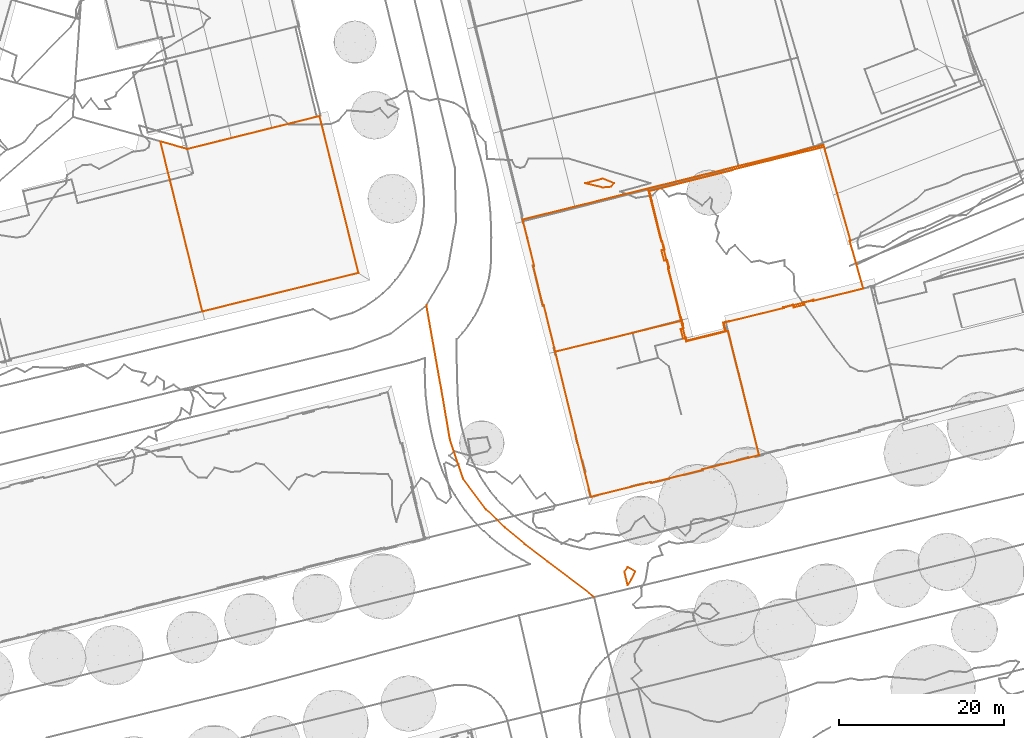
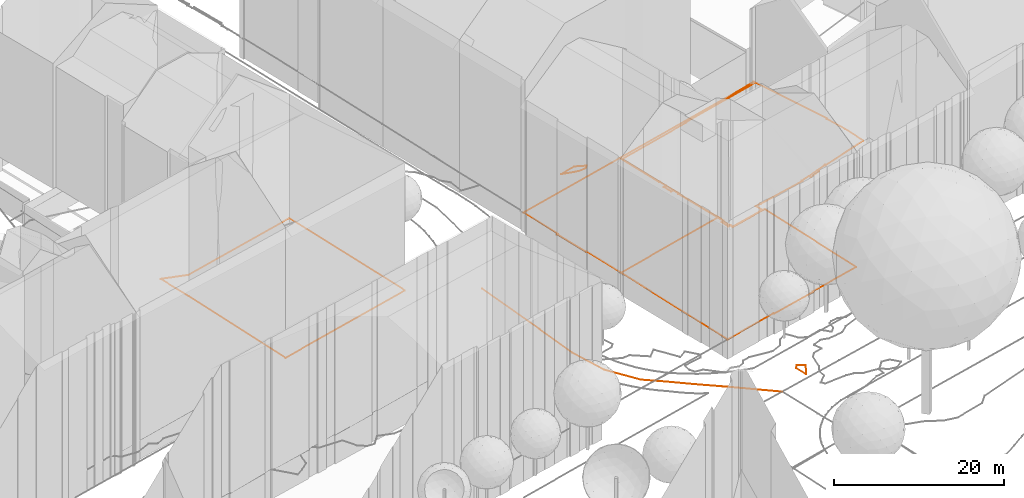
# Not in any storey, part 109 of 494: 8 proxies.
"""IFC2X3 model written with IfcOpenShell, lengths in metres."""

import ifcopenshell
import ifcopenshell.guid

model = None  # the IFC model being written
_history = None  # IfcOwnerHistory: only IFC2X3 demands one
_inside = {}  # id of a spatial element -> (the spatial element, [elements in it])
_under = {}  # id of a project, library or spatial element -> (it, [spatial elements below it])
_declared = {}  # id of a project -> (the project, [libraries it declares])
_typed = {}  # id of a type object -> (the type object, [elements of that type])
_made_of = {}  # id of a material, layer set ... -> (it, [elements and type objects made of it])


def new_model(schema):
    """Start an empty IFC model of exactly this schema.

    Asked for "IFC4X3", IfcOpenShell would pick the latest addendum, in which some entities
    have other attributes; the version numbers below select the first issue.
    IFC2X3 requires an IfcOwnerHistory on every rooted entity: one is made here for all.
    """
    global model, _history
    if schema == "IFC4X3":
        model = ifcopenshell.file(schema_version=(4, 3, 0, 0))
    else:
        model = ifcopenshell.file(schema=schema)
    _inside.clear()
    _under.clear()
    _declared.clear()
    _typed.clear()
    _made_of.clear()
    _history = None
    if model.schema == "IFC2X3":
        org = make("IfcOrganization", Name="unknown")
        user = make(
            "IfcPersonAndOrganization",
            ThePerson=make("IfcPerson", FamilyName="unknown"),
            TheOrganization=org,
        )
        app = make(
            "IfcApplication",
            ApplicationDeveloper=org,
            Version="unknown",
            ApplicationFullName="unknown",
            ApplicationIdentifier="unknown",
        )
        _history = make(
            "IfcOwnerHistory",
            OwningUser=user,
            OwningApplication=app,
            ChangeAction="ADDED",
            CreationDate=0,
        )
    return model


def make(cls, **values):
    """One entity of the class cls with the attributes given. An attribute that is None is left unset."""
    return model.create_entity(
        cls, **{name: value for name, value in values.items() if value is not None}
    )


def entity(cls, *values):
    """Any entity or typed value of the class cls, its attributes in the order of the schema. None: left unset."""
    e = model.create_entity(cls)
    for i, value in enumerate(values):
        if value is not None:
            e[i] = value
    return e


def rooted(cls, **values):
    """An entity with a GlobalId (a new one), such as an element, a storey or a relation."""
    return make(cls, GlobalId=ifcopenshell.guid.new(), OwnerHistory=_history, **values)


def si_unit(unit_type, name, prefix=None):
    """IfcSIUnit, for example si_unit("LENGTHUNIT", "METRE", prefix="MILLI")."""
    return make("IfcSIUnit", UnitType=unit_type, Prefix=prefix, Name=name)


def assignment(units):
    """IfcUnitAssignment: the units of a project."""
    return None if units is None else make("IfcUnitAssignment", Units=units)


def point(xyz):
    """IfcCartesianPoint."""
    return None if xyz is None else make("IfcCartesianPoint", Coordinates=xyz)


def direction(xyz):
    """IfcDirection."""
    return None if xyz is None else make("IfcDirection", DirectionRatios=xyz)


def frame(location, z_axis=None, x_axis=None):
    """IfcAxis2Placement3D, a coordinate frame: its origin and axes. An axis left out is left unset."""
    return make(
        "IfcAxis2Placement3D",
        Location=point(location),
        Axis=direction(z_axis),
        RefDirection=direction(x_axis),
    )


def origin_with_axes():
    """The frame at (0, 0, 0) with the z axis (0, 0, 1) and the x axis (1, 0, 0) written out."""
    return frame((0.0, 0.0, 0.0), z_axis=(0.0, 0.0, 1.0), x_axis=(1.0, 0.0, 0.0))


def place(relative_to, where):
    """IfcLocalPlacement: puts the frame where relative to a parent placement (None: the world)."""
    return make(
        "IfcLocalPlacement", PlacementRelTo=relative_to, RelativePlacement=where
    )


def context(
    kind, dimensions, precision=None, world=None, true_north=None, identifier=None
):
    """IfcGeometricRepresentationContext, for example the 3D "Model" context."""
    return make(
        "IfcGeometricRepresentationContext",
        ContextIdentifier=identifier,
        ContextType=kind,
        CoordinateSpaceDimension=dimensions,
        Precision=precision,
        WorldCoordinateSystem=world,
        TrueNorth=true_north,
    )


def subcontext(parent, identifier, kind, view, scale=None):
    """IfcGeometricRepresentationSubContext, for example "Body" below "Model"."""
    return make(
        "IfcGeometricRepresentationSubContext",
        ContextIdentifier=identifier,
        ContextType=kind,
        ParentContext=parent,
        TargetScale=scale,
        TargetView=view,
    )


def project(units=None, contexts=None):
    """IfcProject with its units and contexts."""
    return rooted(
        "IfcProject",
        Name="project",
        RepresentationContexts=contexts,
        UnitsInContext=assignment(units),
    )


def shape(context_of_items, identifier, shape_type, items):
    """IfcShapeRepresentation: the items that make up one representation, for example the "Body"."""
    return make(
        "IfcShapeRepresentation",
        ContextOfItems=context_of_items,
        RepresentationIdentifier=identifier,
        RepresentationType=shape_type,
        Items=items,
    )


def made_of(thing, what):
    """Note that an element or type object is made of a material, layer set ...; save() writes the relation."""
    if what is not None:
        _made_of.setdefault(what.id(), (what, []))[1].append(thing)
    return thing


def element(
    cls,
    number,
    at=None,
    inside=None,
    cuts=None,
    type_object=None,
    material=None,
    context=None,
    identifier="Body",
    shape_type=None,
    held_by="IfcProductDefinitionShape",
    body=None,
    shapes=None,
    **own,
):
    """One element of the class cls, such as IfcWall. Its Tag is "e" and its number.

    at: its placement. inside: the storey or other place that contains it. cuts: it is an
    opening in that element (IfcRelVoidsElement). A single representation is given by context,
    identifier, shape_type and body (its items); several are given by shapes. held_by: the class
    of the entity that holds the representations. save() writes the other relations.
    """
    e = rooted(cls, Tag="e%d" % number, ObjectPlacement=at, **own)
    if body is not None:
        shapes = [shape(context, identifier, shape_type, body)]
    if shapes is not None:
        e.Representation = make(held_by, Representations=shapes)
    if inside is not None:
        _inside.setdefault(inside.id(), (inside, []))[1].append(e)
    if cuts is not None:
        rooted(
            "IfcRelVoidsElement", RelatingBuildingElement=cuts, RelatedOpeningElement=e
        )
    if type_object is not None:
        _typed.setdefault(type_object.id(), (type_object, []))[1].append(e)
    return made_of(e, material)


def aggregate(whole, parts):
    """IfcRelAggregates: a whole, such as a stair, and the parts it consists of."""
    return rooted("IfcRelAggregates", RelatingObject=whole, RelatedObjects=parts)


def save(model, path):
    """Write the relations noted so far, then the file.

    IfcRelAggregates (storeys below a building ...), IfcRelContainedInSpatialStructure (elements
    in a storey), IfcRelDefinesByType, IfcRelAssociatesMaterial and IfcRelDeclares: one each for
    every whole, place, type object, material and project.
    """
    for whole, parts in _under.values():
        aggregate(whole, parts)
    for where, things in _inside.values():
        rooted(
            "IfcRelContainedInSpatialStructure",
            RelatedElements=things,
            RelatingStructure=where,
        )
    for kind, things in _typed.values():
        rooted("IfcRelDefinesByType", RelatedObjects=things, RelatingType=kind)
    for what, things in _made_of.values():
        rooted("IfcRelAssociatesMaterial", RelatedObjects=things, RelatingMaterial=what)
    for by, libraries in _declared.values():
        rooted("IfcRelDeclares", RelatingContext=by, RelatedDefinitions=libraries)
    model.write(path)


model = new_model("IFC2X3")

# Units and contexts
model_context = context("Model", 3, precision=1e-05, world=origin_with_axes())
body_context = subcontext(model_context, "Body", "Model", "MODEL_VIEW")
ifc_project = project(units=[si_unit("AREAUNIT", "SQUARE_METRE"), si_unit("LENGTHUNIT", "METRE")], contexts=[model_context])

# Proxies
proxy_1_placement = place(None, frame((138.3077320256, 377.3967316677, 540.243), z_axis=(0.0, 0.0, 1.0), x_axis=(1.0, 0.0, 0.0)))
element("IfcBuildingElementProxy", 1, at=proxy_1_placement, Name="Road 28", ObjectType="NOTDEFINED", context=body_context, shape_type="GeometricCurveSet", body=[
    entity("IfcGeometricCurveSet", [entity("IfcPolyline", [entity("IfcCartesianPoint", [20.3359999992, -35.3429989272, -0.453]), entity("IfcCartesianPoint", [14.7039999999, -31.042999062, -0.326]), entity("IfcCartesianPoint", [11.9250000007, -28.9269991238, -0.309]), entity("IfcCartesianPoint", [9.5439999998, -26.9419991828, -0.334]), entity("IfcCartesianPoint", [7.2330000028, -24.7309992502, -0.577]), entity("IfcCartesianPoint", [4.4389999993, -21.0059993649, -0.432]), entity("IfcCartesianPoint", [2.8550000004, -16.2559995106, -0.308]), entity("IfcCartesianPoint", [1.8310000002, -10.2949996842, -0.191]), entity("IfcCartesianPoint", [0.0, 0.0, 0.0])])]),
])
proxy_2_placement = place(None, frame((165.3217320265, 391.2317160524, 540.9961313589), z_axis=(0.0, 0.0, 1.0), x_axis=(1.0, 0.0, 0.0)))
element("IfcBuildingElementProxy", 2, at=proxy_2_placement, Name="Roads Outline 62", ObjectType="NOTDEFINED", context=body_context, shape_type="GeometricCurveSet", body=[
    entity("IfcGeometricCurveSet", [entity("IfcPolyline", [entity("IfcCartesianPoint", [0.0, 0.0, 0.0]), entity("IfcCartesianPoint", [10.0830000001, 2.5330000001, 0.1394430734]), entity("IfcCartesianPoint", [10.068, 2.5960000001, 0.1435225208]), entity("IfcCartesianPoint", [21.1520000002, 5.3470000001, 0.3397524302]), entity("IfcCartesianPoint", [21.216, 5.118, 0.3521328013]), entity("IfcCartesianPoint", [24.355, -6.0009999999, 0.9509030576]), entity("IfcCartesianPoint", [24.2620000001, -6.0379999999, 0.9383897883]), entity("IfcCartesianPoint", [25.0800000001, -8.926, 0.9689763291]), entity("IfcCartesianPoint", [25.8990000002, -11.811, 0.7584156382]), entity("IfcCartesianPoint", [19.9300000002, -13.2749999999, 0.2187041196]), entity("IfcCartesianPoint", [19.9010000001, -13.169, 0.2253351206]), entity("IfcCartesianPoint", [18.7240000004, -13.4639999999, 0.0450469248]), entity("IfcCartesianPoint", [18.8020000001, -13.7609999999, 0.0280657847]), entity("IfcCartesianPoint", [17.4620000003, -14.0899999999, -0.165221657]), entity("IfcCartesianPoint", [17.4050000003, -13.7719999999, -0.1505070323]), entity("IfcCartesianPoint", [16.2030000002, -14.075, -0.2319391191]), entity("IfcCartesianPoint", [16.2270000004, -14.1769999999, -0.2344925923]), entity("IfcCartesianPoint", [9.6540000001, -15.7889999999, -0.2279231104]), entity("IfcCartesianPoint", [9.642, -15.7409999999, -0.2266768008]), entity("IfcCartesianPoint", [8.9250000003, -15.9239999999, -0.2103556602]), entity("IfcCartesianPoint", [9.1150000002, -16.71, -0.2306013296]), entity("IfcCartesianPoint", [9.1700000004, -16.689, -0.2317187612]), entity("IfcCartesianPoint", [9.2310000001, -16.9379999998, -0.2381433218]), entity("IfcCartesianPoint", [4.5290000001, -18.1159999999, -0.2726257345]), entity("IfcCartesianPoint", [4.4370000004, -17.7679999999, -0.2605242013]), entity("IfcCartesianPoint", [4.0840000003, -17.8640000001, -0.259479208]), entity("IfcCartesianPoint", [3.8000000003, -16.72, -0.2196210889]), entity("IfcCartesianPoint", [4.1460000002, -16.6099999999, -0.2201778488]), entity("IfcCartesianPoint", [4.0240000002, -16.129, -0.2028316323]), entity("IfcCartesianPoint", [4.0620000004, -16.115, -0.2028735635]), entity("IfcCartesianPoint", [3.9550000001, -15.713, -0.1881300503]), entity("IfcCartesianPoint", [3.8460000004, -15.3059999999, -0.1754722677]), entity("IfcCartesianPoint", [3.8030000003, -15.3159999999, -0.1756053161]), entity("IfcCartesianPoint", [2.318, -9.3810000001, -0.122841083]), entity("IfcCartesianPoint", [2.4100000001, -9.3470000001, -0.1265762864]), entity("IfcCartesianPoint", [2.1660000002, -8.3689999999, -0.1508404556]), entity("IfcCartesianPoint", [1.7810000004, -8.433, -0.134074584]), entity("IfcCartesianPoint", [1.4530000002, -7.169, -0.1464159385]), entity("IfcCartesianPoint", [1.8430000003, -7.1029999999, -0.1656941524]), entity("IfcCartesianPoint", [1.5630000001, -6.041, -0.0879035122]), entity("IfcCartesianPoint", [1.4900000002, -6.041, -0.0815263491]), entity("IfcCartesianPoint", [0.0, 0.0, 0.0])])]),
])
proxy_3_placement = place(None, frame((153.9197320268, 371.7767160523, 540.4879141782), z_axis=(0.0, 0.0, 1.0), x_axis=(1.0, 0.0, 0.0)))
element("IfcBuildingElementProxy", 3, at=proxy_3_placement, Name="Cadastre 57", ObjectType="NOTDEFINED", context=body_context, shape_type="GeometricCurveSet", body=[
    entity("IfcGeometricCurveSet", [entity("IfcPolyline", [entity("IfcCartesianPoint", [0.0, 0.0, 0.0]), entity("IfcCartesianPoint", [15.25, 3.7180000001, 0.3206798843]), entity("IfcCartesianPoint", [15.8679999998, 1.2450000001, 0.233329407]), entity("IfcCartesianPoint", [20.6519999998, 2.4400000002, 0.2680833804]), entity("IfcCartesianPoint", [20.949, 2.5140000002, 0.2612989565]), entity("IfcCartesianPoint", [24.679, -12.5369999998, -0.2139129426]), entity("IfcCartesianPoint", [17.767, -14.2509999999, -0.274823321]), entity("IfcCartesianPoint", [17.7910000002, -14.348, -0.2763359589]), entity("IfcCartesianPoint", [11.6189999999, -15.879, -0.3130261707]), entity("IfcCartesianPoint", [11.591, -15.7679999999, -0.3031984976]), entity("IfcCartesianPoint", [4.3109999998, -17.5729999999, -0.4164211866]), entity("IfcCartesianPoint", [0.0, 0.0, 0.0])])]),
])
proxy_4_placement = place(None, frame((149.9747320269, 387.7837160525, 540.8217711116), z_axis=(0.0, 0.0, 1.0), x_axis=(1.0, 0.0, 0.0)))
element("IfcBuildingElementProxy", 4, at=proxy_4_placement, Name="Cadastre 58", ObjectType="NOTDEFINED", context=body_context, shape_type="GeometricCurveSet", body=[
    entity("IfcGeometricCurveSet", [entity("IfcPolyline", [entity("IfcCartesianPoint", [0.0, 0.0, 0.0]), entity("IfcCartesianPoint", [15.1849999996, 3.7659999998, 0.1890085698]), entity("IfcCartesianPoint", [16.801, -2.7030000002, 0.0862834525]), entity("IfcCartesianPoint", [16.8689999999, -2.6860000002, 0.0811617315]), entity("IfcCartesianPoint", [17.6569999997, -5.8420000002, 0.0482905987]), entity("IfcCartesianPoint", [17.5889999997, -5.8590000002, 0.0508304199]), entity("IfcCartesianPoint", [19.1949999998, -12.2890000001, -0.0131770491]), entity("IfcCartesianPoint", [3.9449999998, -16.0070000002, -0.3338569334]), entity("IfcCartesianPoint", [2.5599999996, -10.3630000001, -0.2333548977]), entity("IfcCartesianPoint", [2.4529999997, -10.3890000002, -0.2361235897]), entity("IfcCartesianPoint", [1.2899999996, -5.6460000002, -0.1848832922]), entity("IfcCartesianPoint", [1.3959999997, -5.6200000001, -0.1825366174]), entity("IfcCartesianPoint", [0.0, 0.0, 0.0])])]),
])
proxy_5_placement = place(None, frame((165.1597320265, 391.5497160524, 541.0107796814), z_axis=(0.0, 0.0, 1.0), x_axis=(1.0, 0.0, 0.0)))
element("IfcBuildingElementProxy", 5, at=proxy_5_placement, Name="Cadastre 60", ObjectType="NOTDEFINED", context=body_context, shape_type="GeometricCurveSet", body=[
    entity("IfcGeometricCurveSet", [entity("IfcPolyline", [entity("IfcCartesianPoint", [0.0, 0.0, 0.0]), entity("IfcCartesianPoint", [21.2470000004, 5.2660000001, 0.317110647]), entity("IfcCartesianPoint", [21.378, 4.8, 0.3374844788]), entity("IfcCartesianPoint", [24.517, -6.3189999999, 0.9362547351]), entity("IfcCartesianPoint", [24.4240000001, -6.3559999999, 0.9237414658]), entity("IfcCartesianPoint", [25.2420000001, -9.2439999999, 0.9543280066]), entity("IfcCartesianPoint", [26.0610000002, -12.129, 0.7437673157]), entity("IfcCartesianPoint", [19.9920000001, -13.618, 0.1906262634]), entity("IfcCartesianPoint", [19.9780000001, -13.5589999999, 0.1941934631]), entity("IfcCartesianPoint", [16.4450000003, -14.425, -0.246586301]), entity("IfcCartesianPoint", [16.4580000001, -14.476, -0.247868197]), entity("IfcCartesianPoint", [9.1520000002, -16.27, -0.2273344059]), entity("IfcCartesianPoint", [9.412, -17.3329999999, -0.2547821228]), entity("IfcCartesianPoint", [4.628, -18.5279999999, -0.2895360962]), entity("IfcCartesianPoint", [4.0100000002, -16.0549999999, -0.2021856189]), entity("IfcCartesianPoint", [2.4040000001, -9.625, -0.1381781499]), entity("IfcCartesianPoint", [2.4720000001, -9.608, -0.1407179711]), entity("IfcCartesianPoint", [1.6840000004, -6.452, -0.1078468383]), entity("IfcCartesianPoint", [1.6160000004, -6.469, -0.1027251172]), entity("IfcCartesianPoint", [0.0, 0.0, 0.0])])]),
])
proxy_6_placement = place(None, frame((106.0997320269, 397.2337160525, 540.9080621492), z_axis=(0.0, 0.0, 1.0), x_axis=(1.0, 0.0, 0.0)))
element("IfcBuildingElementProxy", 6, at=proxy_6_placement, Name="Cadastre 63", ObjectType="NOTDEFINED", context=body_context, shape_type="GeometricCurveSet", body=[
    entity("IfcGeometricCurveSet", [entity("IfcPolyline", [entity("IfcCartesianPoint", [0.0, 0.0, 0.0]), entity("IfcCartesianPoint", [3.253, -0.912, -0.0237522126]), entity("IfcCartesianPoint", [19.2749999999, 3.0799999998, 0.1126464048]), entity("IfcCartesianPoint", [23.9909999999, -15.9110000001, -0.3950353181]), entity("IfcCartesianPoint", [5.085, -20.5830000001, -0.6308886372]), entity("IfcCartesianPoint", [1.1489999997, -4.648, -0.0622074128]), entity("IfcCartesianPoint", [0.0, 0.0, 0.0])])]),
])
proxy_7_placement = place(None, frame((157.5410860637, 392.1707160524, 541.0), z_axis=(0.0, 0.0, 1.0), x_axis=(1.0, 0.0, 0.0)))
element("IfcBuildingElementProxy", 7, at=proxy_7_placement, Name="Contour Line 541.0 m", ObjectType="NOTDEFINED", context=body_context, shape_type="GeometricCurveSet", body=[
    entity("IfcGeometricCurveSet", [entity("IfcPolyline", [entity("IfcCartesianPoint", [3.4773053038, 0.0, 0.0]), entity("IfcCartesianPoint", [3.1366459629, -0.4175084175, 0.0]), entity("IfcCartesianPoint", [2.1366459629, -0.5073529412, 0.0]), entity("IfcCartesianPoint", [0.0, 0.0, 0.0]), entity("IfcCartesianPoint", [2.1366459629, 0.5778894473, 0.0]), entity("IfcCartesianPoint", [3.4773053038, 0.0, 0.0])])]),
])
proxy_8_placement = place(None, frame((162.3017921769, 345.1707160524, 540.0), z_axis=(0.0, 0.0, 1.0), x_axis=(1.0, 0.0, 0.0)))
element("IfcBuildingElementProxy", 8, at=proxy_8_placement, Name="Contour Line 540.0 m", ObjectType="NOTDEFINED", context=body_context, shape_type="GeometricCurveSet", body=[
    entity("IfcGeometricCurveSet", [entity("IfcPolyline", [entity("IfcCartesianPoint", [0.8183482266, -1.0, 0.0]), entity("IfcCartesianPoint", [0.3759398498, -1.6869918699, 0.0]), entity("IfcCartesianPoint", [0.0, 0.0, 0.0]), entity("IfcCartesianPoint", [0.3759398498, 0.4938271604, 0.0]), entity("IfcCartesianPoint", [1.3076168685, 0.0, 0.0]), entity("IfcCartesianPoint", [0.8183482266, -1.0, 0.0])])]),
])

save(model, "model.ifc")
